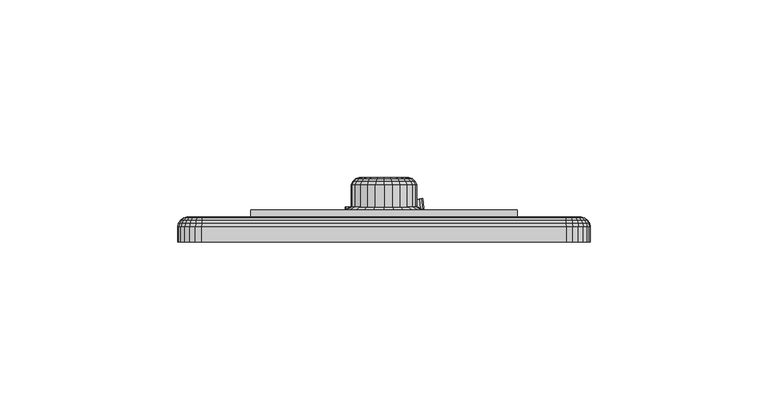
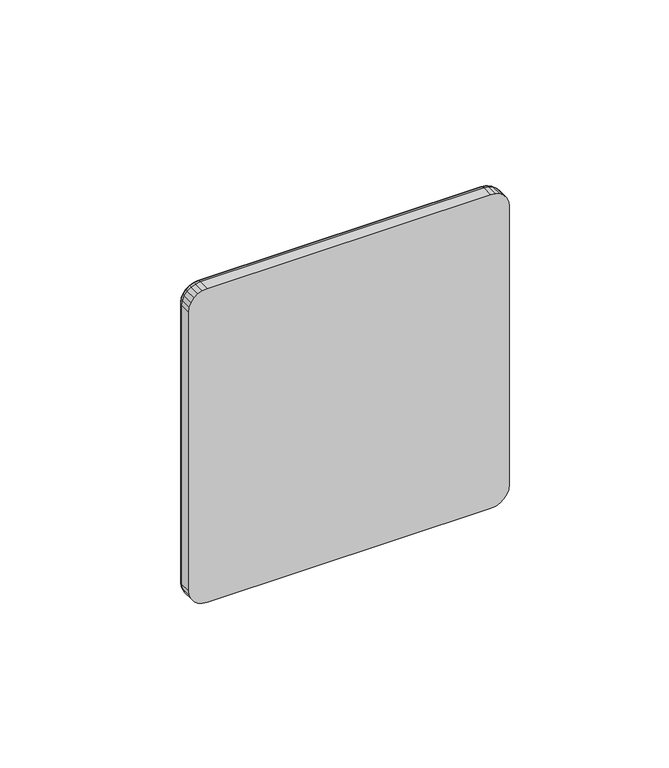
"""IFC4 building model written with IfcOpenShell, lengths in millimetres: switching device geometry, Light-Swich_01 : Light-Swich."""

import ifcopenshell
import ifcopenshell.guid

model = None  # the IFC model being written
_history = None  # IfcOwnerHistory: only IFC2X3 demands one
_inside = {}  # id of a spatial element -> (the spatial element, [elements in it])
_under = {}  # id of a project, library or spatial element -> (it, [spatial elements below it])
_declared = {}  # id of a project -> (the project, [libraries it declares])
_typed = {}  # id of a type object -> (the type object, [elements of that type])
_made_of = {}  # id of a material, layer set ... -> (it, [elements and type objects made of it])


def new_model(schema):
    """Start an empty IFC model of exactly this schema.

    Asked for "IFC4X3", IfcOpenShell would pick the latest addendum, in which some entities
    have other attributes; the version numbers below select the first issue.
    IFC2X3 requires an IfcOwnerHistory on every rooted entity: one is made here for all.
    """
    global model, _history
    if schema == "IFC4X3":
        model = ifcopenshell.file(schema_version=(4, 3, 0, 0))
    else:
        model = ifcopenshell.file(schema=schema)
    _inside.clear()
    _under.clear()
    _declared.clear()
    _typed.clear()
    _made_of.clear()
    _history = None
    if model.schema == "IFC2X3":
        org = make("IfcOrganization", Name="unknown")
        user = make(
            "IfcPersonAndOrganization",
            ThePerson=make("IfcPerson", FamilyName="unknown"),
            TheOrganization=org,
        )
        app = make(
            "IfcApplication",
            ApplicationDeveloper=org,
            Version="unknown",
            ApplicationFullName="unknown",
            ApplicationIdentifier="unknown",
        )
        _history = make(
            "IfcOwnerHistory",
            OwningUser=user,
            OwningApplication=app,
            ChangeAction="ADDED",
            CreationDate=0,
        )
    return model


def make(cls, **values):
    """One entity of the class cls with the attributes given. An attribute that is None is left unset."""
    return model.create_entity(
        cls, **{name: value for name, value in values.items() if value is not None}
    )


def rooted(cls, **values):
    """An entity with a GlobalId (a new one), such as an element, a storey or a relation."""
    return make(cls, GlobalId=ifcopenshell.guid.new(), OwnerHistory=_history, **values)


def si_unit(unit_type, name, prefix=None):
    """IfcSIUnit, for example si_unit("LENGTHUNIT", "METRE", prefix="MILLI")."""
    return make("IfcSIUnit", UnitType=unit_type, Prefix=prefix, Name=name)


def assignment(units):
    """IfcUnitAssignment: the units of a project."""
    return None if units is None else make("IfcUnitAssignment", Units=units)


def point(xyz):
    """IfcCartesianPoint."""
    return None if xyz is None else make("IfcCartesianPoint", Coordinates=xyz)


def direction(xyz):
    """IfcDirection."""
    return None if xyz is None else make("IfcDirection", DirectionRatios=xyz)


def frame(location, z_axis=None, x_axis=None):
    """IfcAxis2Placement3D, a coordinate frame: its origin and axes. An axis left out is left unset."""
    return make(
        "IfcAxis2Placement3D",
        Location=point(location),
        Axis=direction(z_axis),
        RefDirection=direction(x_axis),
    )


def origin():
    """The frame at (0, 0, 0) with its axes left unset."""
    return frame((0.0, 0.0, 0.0))


def place(relative_to, where):
    """IfcLocalPlacement: puts the frame where relative to a parent placement (None: the world)."""
    return make(
        "IfcLocalPlacement", PlacementRelTo=relative_to, RelativePlacement=where
    )


def context(
    kind, dimensions, precision=None, world=None, true_north=None, identifier=None
):
    """IfcGeometricRepresentationContext, for example the 3D "Model" context."""
    return make(
        "IfcGeometricRepresentationContext",
        ContextIdentifier=identifier,
        ContextType=kind,
        CoordinateSpaceDimension=dimensions,
        Precision=precision,
        WorldCoordinateSystem=world,
        TrueNorth=true_north,
    )


def project(units=None, contexts=None):
    """IfcProject with its units and contexts."""
    return rooted(
        "IfcProject",
        Name="project",
        RepresentationContexts=contexts,
        UnitsInContext=assignment(units),
    )


def spatial(cls, under=None, at=None, **own):
    """A site, building, storey or space (cls), placed at a placement, below another one or the project."""
    s = rooted(cls, ObjectPlacement=at, **own)
    if under is not None:
        _under.setdefault(under.id(), (under, []))[1].append(s)
    return s


def polyline(points):
    """IfcPolyline through the points."""
    return make("IfcPolyline", Points=[point(p) for p in points])


def outline(outer, holes=None, kind="AREA"):
    """IfcArbitraryClosedProfileDef: a profile drawn as a closed curve; with holes, ...WithVoids."""
    if holes is None:
        return make("IfcArbitraryClosedProfileDef", ProfileType=kind, OuterCurve=outer)
    return make(
        "IfcArbitraryProfileDefWithVoids",
        ProfileType=kind,
        OuterCurve=outer,
        InnerCurves=holes,
    )


def extrude(swept, where, along, depth):
    """IfcExtrudedAreaSolid: the profile swept, set in the frame where, extruded along a direction by depth."""
    return make(
        "IfcExtrudedAreaSolid",
        SweptArea=swept,
        Position=where,
        ExtrudedDirection=direction(along),
        Depth=depth,
    )


def faces_of(points, faces, orient=None, outer=None):
    """IfcFace entities. A face is a list of loops; a loop is a list of indices into points, from 0.

    orient and outer hold one flag for each loop. By default every Orientation is true, the
    first loop of a face is its IfcFaceOuterBound and the others are IfcFaceBound.
    """
    made = []
    for i, loops in enumerate(faces):
        bounds = []
        for j, loop in enumerate(loops):
            is_outer = j == 0 if outer is None else outer[i][j]
            bounds.append(
                make(
                    "IfcFaceOuterBound" if is_outer else "IfcFaceBound",
                    Bound=make("IfcPolyLoop", Polygon=[points[k] for k in loop]),
                    Orientation=True if orient is None else orient[i][j],
                )
            )
        made.append(make("IfcFace", Bounds=bounds))
    return made


def faceted_brep(points, faces, orient=None, outer=None, voids=None):
    """IfcFacetedBrep: a solid bounded by flat faces; with voids (closed shells), ...WithVoids."""
    shared = [point(p) for p in points]
    hull = make("IfcClosedShell", CfsFaces=faces_of(shared, faces, orient, outer))
    if voids is None:
        return make("IfcFacetedBrep", Outer=hull)
    return make(
        "IfcFacetedBrepWithVoids",
        Outer=hull,
        Voids=[
            make(cls, CfsFaces=faces_of(shared, fs, o, b)) for cls, fs, o, b in voids
        ],
    )


def shape(context_of_items, identifier, shape_type, items):
    """IfcShapeRepresentation: the items that make up one representation, for example the "Body"."""
    return make(
        "IfcShapeRepresentation",
        ContextOfItems=context_of_items,
        RepresentationIdentifier=identifier,
        RepresentationType=shape_type,
        Items=items,
    )


def source(mapping_origin, context_of_items, identifier, shape_type, items):
    """IfcRepresentationMap: a shape defined once, which mapped items show again and again."""
    return make(
        "IfcRepresentationMap",
        MappingOrigin=mapping_origin,
        MappedRepresentation=shape(context_of_items, identifier, shape_type, items),
    )


def transform(
    local_origin,
    x_axis=None,
    y_axis=None,
    z_axis=None,
    scale=None,
    scale2=None,
    scale3=None,
    uniform=True,
):
    """IfcCartesianTransformationOperator3D, or its non-uniform kind. x_axis, y_axis, z_axis: its Axis1, 2, 3."""
    if uniform:
        return make(
            "IfcCartesianTransformationOperator3D",
            Axis1=direction(x_axis),
            Axis2=direction(y_axis),
            LocalOrigin=point(local_origin),
            Scale=scale,
            Axis3=direction(z_axis),
        )
    return make(
        "IfcCartesianTransformationOperator3DnonUniform",
        Axis1=direction(x_axis),
        Axis2=direction(y_axis),
        LocalOrigin=point(local_origin),
        Scale=scale,
        Axis3=direction(z_axis),
        Scale2=scale2,
        Scale3=scale3,
    )


def mapped(mapping_source, mapping_target):
    """IfcMappedItem: shows the shape of a source again, moved by a transform."""
    return make(
        "IfcMappedItem", MappingSource=mapping_source, MappingTarget=mapping_target
    )


def made_of(thing, what):
    """Note that an element or type object is made of a material, layer set ...; save() writes the relation."""
    if what is not None:
        _made_of.setdefault(what.id(), (what, []))[1].append(thing)
    return thing


def element(
    cls,
    number,
    at=None,
    inside=None,
    cuts=None,
    type_object=None,
    material=None,
    context=None,
    identifier="Body",
    shape_type=None,
    held_by="IfcProductDefinitionShape",
    body=None,
    shapes=None,
    **own,
):
    """One element of the class cls, such as IfcWall. Its Tag is "e" and its number.

    at: its placement. inside: the storey or other place that contains it. cuts: it is an
    opening in that element (IfcRelVoidsElement). A single representation is given by context,
    identifier, shape_type and body (its items); several are given by shapes. held_by: the class
    of the entity that holds the representations. save() writes the other relations.
    """
    e = rooted(cls, Tag="e%d" % number, ObjectPlacement=at, **own)
    if body is not None:
        shapes = [shape(context, identifier, shape_type, body)]
    if shapes is not None:
        e.Representation = make(held_by, Representations=shapes)
    if inside is not None:
        _inside.setdefault(inside.id(), (inside, []))[1].append(e)
    if cuts is not None:
        rooted(
            "IfcRelVoidsElement", RelatingBuildingElement=cuts, RelatedOpeningElement=e
        )
    if type_object is not None:
        _typed.setdefault(type_object.id(), (type_object, []))[1].append(e)
    return made_of(e, material)


def aggregate(whole, parts):
    """IfcRelAggregates: a whole, such as a stair, and the parts it consists of."""
    return rooted("IfcRelAggregates", RelatingObject=whole, RelatedObjects=parts)


def save(model, path):
    """Write the relations noted so far, then the file.

    IfcRelAggregates (storeys below a building ...), IfcRelContainedInSpatialStructure (elements
    in a storey), IfcRelDefinesByType, IfcRelAssociatesMaterial and IfcRelDeclares: one each for
    every whole, place, type object, material and project.
    """
    for whole, parts in _under.values():
        aggregate(whole, parts)
    for where, things in _inside.values():
        rooted(
            "IfcRelContainedInSpatialStructure",
            RelatedElements=things,
            RelatingStructure=where,
        )
    for kind, things in _typed.values():
        rooted("IfcRelDefinesByType", RelatedObjects=things, RelatingType=kind)
    for what, things in _made_of.values():
        rooted("IfcRelAssociatesMaterial", RelatedObjects=things, RelatingMaterial=what)
    for by, libraries in _declared.values():
        rooted("IfcRelDeclares", RelatingContext=by, RelatedDefinitions=libraries)
    model.write(path)


def plane_surface(at):
    """IfcPlane: the flat surface through the origin of the frame at, square to its z axis."""
    return make("IfcPlane", Position=at)


def spline_surface(u_degree, v_degree, points, u_multiplicities, v_multiplicities, u_knots, v_knots, weights=None):
    """IfcBSplineSurfaceWithKnots; with weights, IfcRationalBSplineSurfaceWithKnots. points: one row for each step in u."""
    own = dict(
        UDegree=u_degree,
        VDegree=v_degree,
        ControlPointsList=[[point(p) for p in row] for row in points],
        SurfaceForm="UNSPECIFIED",
        UClosed=False,
        VClosed=False,
        SelfIntersect=False,
        UMultiplicities=u_multiplicities,
        VMultiplicities=v_multiplicities,
        UKnots=u_knots,
        VKnots=v_knots,
        KnotSpec="UNSPECIFIED",
    )
    if weights is None:
        return make("IfcBSplineSurfaceWithKnots", **own)
    return make("IfcRationalBSplineSurfaceWithKnots", WeightsData=weights, **own)


def advanced_brep(points, edges, surfaces, faces):
    """IfcAdvancedBrep: a solid bounded by faces that lie on surfaces and meet in shared edges.

    An edge is (start, end): straight between two places in points (the first is 0);
    or (start, end, curve); or (start, end, curve, False) where it runs against its curve.
    A face is (place in surfaces, loops), or (place, loops, False) where it looks against
    its surface's normal. A loop lists edges by number (the first is 1), with a minus sign
    where the edge is run from its end to its start. The first loop is the outer one.
    """
    corners = [point(p) for p in points]
    vertices = [make("IfcVertexPoint", VertexGeometry=c) for c in corners]
    made = []
    for start, end, *more in edges:
        made.append(
            make(
                "IfcEdgeCurve",
                EdgeStart=vertices[start],
                EdgeEnd=vertices[end],
                EdgeGeometry=more[0] if more else make("IfcPolyline", Points=[corners[start], corners[end]]),
                SameSense=more[1] if len(more) > 1 else True,
            )
        )
    hull = []
    for where, loops, *sense in faces:
        bounds = []
        for j, loop in enumerate(loops):
            ring = [make("IfcOrientedEdge", EdgeElement=made[abs(k) - 1], Orientation=k > 0) for k in loop]
            bounds.append(
                make(
                    "IfcFaceOuterBound" if j == 0 else "IfcFaceBound",
                    Bound=make("IfcEdgeLoop", EdgeList=ring),
                    Orientation=True,
                )
            )
        hull.append(make("IfcAdvancedFace", Bounds=bounds, FaceSurface=surfaces[where], SameSense=sense[0] if sense else True))
    return make("IfcAdvancedBrep", Outer=make("IfcClosedShell", CfsFaces=hull))


def switching_device_beee7f32(model_context):
    return source(origin(), model_context, "Body", "SolidModel", [
        extrude(outline(polyline([(-20.3580856, 0.0), (-0.3580856, 0.0), (0.3857807, -0.2561337), (0.6419144, -1.0), (0.6419144, -14.9694622), (0.3857807, -15.7133285), (-0.3580856, -15.9694622), (-20.3580856, -15.9694622), (-21.1019519, -15.7133285), (-21.3580856, -14.9694622), (-21.3580856, -1.0), (-21.1019519, -0.2561337), (-20.3580856, 0.0)])), frame((115.1428104, 15.9827491, 1238.932724), z_axis=(-0.10947671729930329, 0.9939893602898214, 0.0), x_axis=(-0.9939893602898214, -0.10947671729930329, 0.0)), (0.0, 0.0, 1.0), 4.0066718),
        faceted_brep([(123.210035, 28.2142935, 1272.5799747), (125.0, 28.2142935, 1272.8156281), (126.789965, 28.2142935, 1272.5799747), (128.4579468, 28.2142935, 1271.889074), (129.8902752, 28.2142935, 1270.7900097), (130.9893395, 28.2142935, 1269.3576813), (131.6802402, 28.2142935, 1267.6896995), (131.9158936, 28.2142935, 1265.8997345), (131.6802402, 28.2142935, 1264.1097695), (130.9893395, 28.2142935, 1262.4417877), (129.8902752, 28.2142935, 1261.0094593), (128.4579468, 28.2142935, 1259.910395), (126.789965, 28.2142935, 1259.2194943), (125.0, 28.2142935, 1258.9838409), (123.210035, 28.2142935, 1259.2194943), (121.5420532, 28.2142935, 1259.910395), (120.1097248, 28.2142935, 1261.0094593), (119.0106605, 28.2142935, 1262.4417877), (118.3197598, 28.2142935, 1264.1097695), (118.0841064, 28.2142935, 1265.8997345), (118.3197598, 28.2142935, 1267.6896995), (119.0106605, 28.2142935, 1269.3576813), (120.1097248, 28.2142935, 1270.7900097), (121.5420532, 28.2142935, 1271.889074), (121.0335159, 27.9142935, 1272.7698864), (122.9467968, 27.9142935, 1273.5623933), (119.3905444, 27.9142935, 1271.5091901), (118.1298481, 27.9142935, 1269.8662186), (117.3373412, 27.9142935, 1267.9529377), (117.0670319, 27.9142935, 1265.8997345), (117.3373412, 27.9142935, 1263.8465313), (118.1298481, 27.9142935, 1261.9332504), (119.3905444, 27.9142935, 1260.2902789), (121.0335159, 27.9142935, 1259.0295826), (122.9467968, 27.9142935, 1258.2370757), (125.0, 27.9142935, 1257.9667664), (127.0532032, 27.9142935, 1258.2370757), (128.9664841, 27.9142935, 1259.0295826), (130.6094556, 27.9142935, 1260.2902789), (131.8701519, 27.9142935, 1261.9332504), (132.6626588, 27.9142935, 1263.8465313), (132.9329681, 27.9142935, 1265.8997345), (132.6626588, 27.9142935, 1267.9529377), (131.8701519, 27.9142935, 1269.8662186), (130.6094556, 27.9142935, 1271.5091901), (128.9664841, 27.9142935, 1272.7698864), (127.0532032, 27.9142935, 1273.5623933), (125.0, 27.9142935, 1273.8327026), (122.7523349, 27.2142935, 1274.2881347), (120.6578445, 27.2142935, 1273.4205684), (118.8592649, 27.2142935, 1272.0404696), (117.4791661, 27.2142935, 1270.24189), (116.6115998, 27.2142935, 1268.1473996), (116.3156891, 27.2142935, 1265.8997345), (116.6115998, 27.2142935, 1263.6520694), (117.4791661, 27.2142935, 1261.557579), (118.8592649, 27.2142935, 1259.7589994), (120.6578445, 27.2142935, 1258.3789006), (122.7523349, 27.2142935, 1257.5113343), (125.0, 27.2142935, 1257.2154236), (127.2476651, 27.2142935, 1257.5113343), (129.3421555, 27.2142935, 1258.3789006), (131.1407351, 27.2142935, 1259.7589994), (132.5208339, 27.2142935, 1261.557579), (133.3884002, 27.2142935, 1263.6520694), (133.6843109, 27.2142935, 1265.8997345), (133.3884002, 27.2142935, 1268.1473996), (132.5208339, 27.2142935, 1270.24189), (131.1407351, 27.2142935, 1272.0404696), (129.3421555, 27.2142935, 1273.4205684), (127.2476651, 27.2142935, 1274.2881347), (125.0, 27.2142935, 1274.5840454), (122.6000908, 26.2142935, 1274.8563177), (120.3637314, 26.2142935, 1273.9299873), (118.443326, 26.2142935, 1272.4564085), (116.9697472, 26.2142935, 1270.5360031), (116.0434168, 26.2142935, 1268.2996437), (115.7274628, 26.2142935, 1265.8997345), (116.0434168, 26.2142935, 1263.4998253), (116.9697472, 26.2142935, 1261.2634659), (118.443326, 26.2142935, 1259.3430605), (120.3637314, 26.2142935, 1257.8694817), (122.6000908, 26.2142935, 1256.9431513), (125.0, 26.2142935, 1256.6271973), (127.3999092, 26.2142935, 1256.9431513), (129.6362686, 26.2142935, 1257.8694817), (131.556674, 26.2142935, 1259.3430605), (133.0302528, 26.2142935, 1261.2634659), (133.9565832, 26.2142935, 1263.4998253), (134.2725372, 26.2142935, 1265.8997345), (133.9565832, 26.2142935, 1268.2996437), (133.0302528, 26.2142935, 1270.5360031), (131.556674, 26.2142935, 1272.4564085), (129.6362686, 26.2142935, 1273.9299873), (127.3999092, 26.2142935, 1274.8563177), (125.0, 26.2142935, 1275.1722717), (122.6000977, 19.1539648, 1274.8562622), (125.0, 19.1539648, 1275.1722717), (120.3637695, 19.1539648, 1273.9299774), (118.4433746, 19.1539648, 1272.4563599), (116.9697952, 19.1539648, 1270.535965), (116.0434723, 19.1539648, 1268.2996368), (115.7275391, 19.1539648, 1265.8997345), (116.0434723, 19.1539648, 1263.4998322), (116.9697952, 19.1539648, 1261.263504), (118.4433746, 19.1539648, 1259.3431091), (120.3637695, 19.1539648, 1257.8694916), (122.6000977, 19.1539648, 1256.9432068), (125.0, 19.1539648, 1256.6271973), (127.3999023, 19.1539648, 1256.9432068), (129.6362305, 19.1539648, 1257.8694916), (131.5566254, 19.1539648, 1259.3431091), (133.0302048, 19.1539648, 1261.263504), (133.9565277, 19.1539648, 1263.4998322), (134.2724609, 19.1539648, 1265.8997345), (133.9565277, 19.1539648, 1268.2996368), (133.0302048, 19.1539648, 1270.535965), (131.5566254, 19.1539648, 1272.4563599), (129.6362305, 19.1539648, 1273.9299774), (127.3999023, 19.1539648, 1274.8562622)], [[[0, 1, 2, 3, 4, 5, 6, 7, 8, 9, 10, 11, 12, 13, 14, 15, 16, 17, 18, 19, 20, 21, 22, 23]], [[0, 23, 24, 25]], [[23, 22, 26, 24]], [[22, 21, 27, 26]], [[21, 20, 28, 27]], [[20, 19, 29, 28]], [[19, 18, 30, 29]], [[18, 17, 31, 30]], [[17, 16, 32, 31]], [[16, 15, 33, 32]], [[15, 14, 34, 33]], [[14, 13, 35, 34]], [[13, 12, 36, 35]], [[12, 11, 37, 36]], [[11, 10, 38, 37]], [[10, 9, 39, 38]], [[9, 8, 40, 39]], [[8, 7, 41, 40]], [[7, 6, 42, 41]], [[6, 5, 43, 42]], [[5, 4, 44, 43]], [[4, 3, 45, 44]], [[3, 2, 46, 45]], [[2, 1, 47, 46]], [[1, 0, 25, 47]], [[48, 25, 24, 49]], [[49, 24, 26, 50]], [[50, 26, 27, 51]], [[51, 27, 28, 52]], [[52, 28, 29, 53]], [[53, 29, 30, 54]], [[54, 30, 31, 55]], [[55, 31, 32, 56]], [[56, 32, 33, 57]], [[57, 33, 34, 58]], [[58, 34, 35, 59]], [[59, 35, 36, 60]], [[60, 36, 37, 61]], [[61, 37, 38, 62]], [[62, 38, 39, 63]], [[63, 39, 40, 64]], [[64, 40, 41, 65]], [[65, 41, 42, 66]], [[66, 42, 43, 67]], [[67, 43, 44, 68]], [[68, 44, 45, 69]], [[69, 45, 46, 70]], [[70, 46, 47, 71]], [[25, 48, 71, 47]], [[72, 48, 49, 73]], [[73, 49, 50, 74]], [[74, 50, 51, 75]], [[75, 51, 52, 76]], [[76, 52, 53, 77]], [[77, 53, 54, 78]], [[78, 54, 55, 79]], [[79, 55, 56, 80]], [[80, 56, 57, 81]], [[81, 57, 58, 82]], [[82, 58, 59, 83]], [[83, 59, 60, 84]], [[84, 60, 61, 85]], [[85, 61, 62, 86]], [[86, 62, 63, 87]], [[87, 63, 64, 88]], [[88, 64, 65, 89]], [[89, 65, 66, 90]], [[90, 66, 67, 91]], [[91, 67, 68, 92]], [[92, 68, 69, 93]], [[93, 69, 70, 94]], [[94, 70, 71, 95]], [[48, 72, 95, 71]], [[96, 97, 95, 72]], [[98, 96, 72, 73]], [[99, 98, 73, 74]], [[100, 99, 74, 75]], [[101, 100, 75, 76]], [[102, 101, 76, 77]], [[103, 102, 77, 78]], [[104, 103, 78, 79]], [[105, 104, 79, 80]], [[106, 105, 80, 81]], [[107, 106, 81, 82]], [[108, 107, 82, 83]], [[109, 108, 83, 84]], [[110, 109, 84, 85]], [[111, 110, 85, 86]], [[112, 111, 86, 87]], [[113, 112, 87, 88]], [[114, 113, 88, 89]], [[115, 114, 89, 90]], [[116, 115, 90, 91]], [[117, 116, 91, 92]], [[118, 117, 92, 93]], [[119, 118, 93, 94]], [[97, 119, 94, 95]], [[97, 96, 98, 99, 100, 101, 102, 103, 104, 105, 106, 107, 108, 109, 110, 111, 112, 113, 114, 115, 116, 117, 118, 119]]]),
        advanced_brep(
        [(131.5566254, 20.1142935, 1272.4563599), (133.0302048, 20.1142935, 1270.535965), (133.9565277, 20.1142935, 1268.2996368), (134.2724609, 20.1142935, 1265.8997345), (133.9565277, 20.1142935, 1263.4998322), (133.0302048, 20.1142935, 1261.263504), (131.5566254, 20.1142935, 1259.3431091), (129.6362305, 20.1142935, 1257.8694916), (127.3999023, 20.1142935, 1256.9432068), (125.0, 20.1142935, 1256.6271973), (122.6000977, 20.1142935, 1256.9432068), (120.3637695, 20.1142935, 1257.8694916), (118.4433746, 20.1142935, 1259.3431091), (116.9697952, 20.1142935, 1261.263504), (116.0434723, 20.1142935, 1263.4998322), (115.7275391, 20.1142935, 1265.8997345), (116.0434723, 20.1142935, 1268.2996368), (116.9697952, 20.1142935, 1270.535965), (118.4433746, 20.1142935, 1272.4563599), (120.3637695, 20.1142935, 1273.9299774), (122.6000977, 20.1142935, 1274.8562622), (125.0, 20.1142935, 1275.1722717), (127.3999023, 20.1142935, 1274.8562622), (129.6362305, 20.1142935, 1273.9299774), (132.7561569, 19.1539648, 1273.6559296), (130.4844284, 19.1539648, 1275.3990936), (127.8389359, 19.1539648, 1276.4949036), (125.0, 19.1539648, 1276.8686676), (122.1610641, 19.1539648, 1276.4949036), (119.5155716, 19.1539648, 1275.3990936), (117.2438431, 19.1539648, 1273.6559296), (115.500679, 19.1539648, 1271.384201), (114.4049072, 19.1539648, 1268.7387085), (114.0311432, 19.1539648, 1265.8997345), (114.4049072, 19.1539648, 1263.0607605), (115.500679, 19.1539648, 1260.4152679), (117.2438431, 19.1539648, 1258.1435394), (119.5155716, 19.1539648, 1256.4003754), (122.1610641, 19.1539648, 1255.3045654), (125.0, 19.1539648, 1254.9308014), (127.8389359, 19.1539648, 1255.3045654), (130.4844284, 19.1539648, 1256.4003754), (132.7561569, 19.1539648, 1258.1435394), (134.499321, 19.1539648, 1260.4152679), (135.5950928, 19.1539648, 1263.0607605), (135.9688568, 19.1539648, 1265.8997345), (135.5950928, 19.1539648, 1268.7387085), (134.499321, 19.1539648, 1271.384201)],
        [
            (0, 1),
            (1, 2),
            (2, 3),
            (3, 4),
            (4, 5),
            (5, 6),
            (6, 7),
            (7, 8),
            (8, 9),
            (9, 10),
            (10, 11),
            (11, 12),
            (12, 13),
            (13, 14),
            (14, 15),
            (15, 16),
            (16, 17),
            (17, 18),
            (18, 19),
            (19, 20),
            (20, 21),
            (21, 22),
            (22, 23),
            (23, 0),
            (24, 25),
            (25, 26),
            (26, 27),
            (27, 28),
            (28, 29),
            (29, 30),
            (30, 31),
            (31, 32),
            (32, 33),
            (33, 34),
            (34, 35),
            (35, 36),
            (36, 37),
            (37, 38),
            (38, 39),
            (39, 40),
            (40, 41),
            (41, 42),
            (42, 43),
            (43, 44),
            (44, 45),
            (45, 46),
            (46, 47),
            (47, 24),
            (24, 0),
            (23, 25),
            (22, 26),
            (21, 27),
            (20, 28),
            (19, 29),
            (18, 30),
            (17, 31),
            (16, 32),
            (15, 33),
            (14, 34),
            (13, 35),
            (12, 36),
            (11, 37),
            (10, 38),
            (9, 39),
            (8, 40),
            (7, 41),
            (6, 42),
            (5, 43),
            (4, 44),
            (3, 45),
            (2, 46),
            (1, 47),
        ],
        [
            plane_surface(frame((125.0, 20.1142935, 1265.8997345), z_axis=(0.0, 1.0, 0.0), x_axis=(-0.9238843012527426, 0.0, -0.3826719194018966))),
            plane_surface(frame((125.0, 19.1539648, 1265.8997345), z_axis=(0.0, -1.0, 0.0), x_axis=(-0.9238843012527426, 0.0, -0.3826719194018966))),
            spline_surface(1, 1, [[(130.4844284, 19.1539648, 1275.3990936), (129.6362305, 20.1142935, 1273.9299774)], [(132.7561569, 19.1539648, 1273.6559296), (131.5566254, 20.1142935, 1272.4563599)]], [2, 2], [2, 2], [0.0, 1.0], [0.0, 1.0]),
            spline_surface(1, 1, [[(127.8389359, 19.1539648, 1276.4949036), (127.3999023, 20.1142935, 1274.8562622)], [(130.4844284, 19.1539648, 1275.3990936), (129.6362305, 20.1142935, 1273.9299774)]], [2, 2], [2, 2], [0.0, 1.0], [0.0, 1.0]),
            spline_surface(1, 1, [[(125.0, 19.1539648, 1276.8686676), (125.0, 20.1142935, 1275.1722717)], [(127.8389359, 19.1539648, 1276.4949036), (127.3999023, 20.1142935, 1274.8562622)]], [2, 2], [2, 2], [0.0, 1.0], [0.0, 1.0]),
            spline_surface(1, 1, [[(122.1610641, 19.1539648, 1276.4949036), (122.6000977, 20.1142935, 1274.8562622)], [(125.0, 19.1539648, 1276.8686676), (125.0, 20.1142935, 1275.1722717)]], [2, 2], [2, 2], [0.0, 1.0], [0.0, 1.0]),
            spline_surface(1, 1, [[(119.5155716, 19.1539648, 1275.3990936), (120.3637695, 20.1142935, 1273.9299774)], [(122.1610641, 19.1539648, 1276.4949036), (122.6000977, 20.1142935, 1274.8562622)]], [2, 2], [2, 2], [0.0, 1.0], [0.0, 1.0]),
            spline_surface(1, 1, [[(117.2438431, 19.1539648, 1273.6559296), (118.4433746, 20.1142935, 1272.4563599)], [(119.5155716, 19.1539648, 1275.3990936), (120.3637695, 20.1142935, 1273.9299774)]], [2, 2], [2, 2], [0.0, 1.0], [0.0, 1.0]),
            spline_surface(1, 1, [[(115.500679, 19.1539648, 1271.384201), (116.9697952, 20.1142935, 1270.535965)], [(117.2438431, 19.1539648, 1273.6559296), (118.4433746, 20.1142935, 1272.4563599)]], [2, 2], [2, 2], [0.0, 1.0], [0.0, 1.0]),
            spline_surface(1, 1, [[(114.4049072, 19.1539648, 1268.7387085), (116.0434723, 20.1142935, 1268.2996368)], [(115.500679, 19.1539648, 1271.384201), (116.9697952, 20.1142935, 1270.535965)]], [2, 2], [2, 2], [0.0, 1.0], [0.0, 1.0]),
            spline_surface(1, 1, [[(114.0311432, 19.1539648, 1265.8997345), (115.7275391, 20.1142935, 1265.8997345)], [(114.4049072, 19.1539648, 1268.7387085), (116.0434723, 20.1142935, 1268.2996368)]], [2, 2], [2, 2], [0.0, 1.0], [0.0, 1.0]),
            spline_surface(1, 1, [[(114.4049072, 19.1539648, 1263.0607605), (116.0434723, 20.1142935, 1263.4998322)], [(114.0311432, 19.1539648, 1265.8997345), (115.7275391, 20.1142935, 1265.8997345)]], [2, 2], [2, 2], [0.0, 1.0], [0.0, 1.0]),
            spline_surface(1, 1, [[(115.500679, 19.1539648, 1260.4152679), (116.9697952, 20.1142935, 1261.263504)], [(114.4049072, 19.1539648, 1263.0607605), (116.0434723, 20.1142935, 1263.4998322)]], [2, 2], [2, 2], [0.0, 1.0], [0.0, 1.0]),
            spline_surface(1, 1, [[(117.2438431, 19.1539648, 1258.1435394), (118.4433746, 20.1142935, 1259.3431091)], [(115.500679, 19.1539648, 1260.4152679), (116.9697952, 20.1142935, 1261.263504)]], [2, 2], [2, 2], [0.0, 1.0], [0.0, 1.0]),
            spline_surface(1, 1, [[(119.5155716, 19.1539648, 1256.4003754), (120.3637695, 20.1142935, 1257.8694916)], [(117.2438431, 19.1539648, 1258.1435394), (118.4433746, 20.1142935, 1259.3431091)]], [2, 2], [2, 2], [0.0, 1.0], [0.0, 1.0]),
            spline_surface(1, 1, [[(122.1610641, 19.1539648, 1255.3045654), (122.6000977, 20.1142935, 1256.9432068)], [(119.5155716, 19.1539648, 1256.4003754), (120.3637695, 20.1142935, 1257.8694916)]], [2, 2], [2, 2], [0.0, 1.0], [0.0, 1.0]),
            spline_surface(1, 1, [[(125.0, 19.1539648, 1254.9308014), (125.0, 20.1142935, 1256.6271973)], [(122.1610641, 19.1539648, 1255.3045654), (122.6000977, 20.1142935, 1256.9432068)]], [2, 2], [2, 2], [0.0, 1.0], [0.0, 1.0]),
            spline_surface(1, 1, [[(127.8389359, 19.1539648, 1255.3045654), (127.3999023, 20.1142935, 1256.9432068)], [(125.0, 19.1539648, 1254.9308014), (125.0, 20.1142935, 1256.6271973)]], [2, 2], [2, 2], [0.0, 1.0], [0.0, 1.0]),
            spline_surface(1, 1, [[(130.4844284, 19.1539648, 1256.4003754), (129.6362305, 20.1142935, 1257.8694916)], [(127.8389359, 19.1539648, 1255.3045654), (127.3999023, 20.1142935, 1256.9432068)]], [2, 2], [2, 2], [0.0, 1.0], [0.0, 1.0]),
            spline_surface(1, 1, [[(132.7561569, 19.1539648, 1258.1435394), (131.5566254, 20.1142935, 1259.3431091)], [(130.4844284, 19.1539648, 1256.4003754), (129.6362305, 20.1142935, 1257.8694916)]], [2, 2], [2, 2], [0.0, 1.0], [0.0, 1.0]),
            spline_surface(1, 1, [[(134.499321, 19.1539648, 1260.4152679), (133.0302048, 20.1142935, 1261.263504)], [(132.7561569, 19.1539648, 1258.1435394), (131.5566254, 20.1142935, 1259.3431091)]], [2, 2], [2, 2], [0.0, 1.0], [0.0, 1.0]),
            spline_surface(1, 1, [[(135.5950928, 19.1539648, 1263.0607605), (133.9565277, 20.1142935, 1263.4998322)], [(134.499321, 19.1539648, 1260.4152679), (133.0302048, 20.1142935, 1261.263504)]], [2, 2], [2, 2], [0.0, 1.0], [0.0, 1.0]),
            spline_surface(1, 1, [[(135.9688568, 19.1539648, 1265.8997345), (134.2724609, 20.1142935, 1265.8997345)], [(135.5950928, 19.1539648, 1263.0607605), (133.9565277, 20.1142935, 1263.4998322)]], [2, 2], [2, 2], [0.0, 1.0], [0.0, 1.0]),
            spline_surface(1, 1, [[(135.5950928, 19.1539648, 1268.7387085), (133.9565277, 20.1142935, 1268.2996368)], [(135.9688568, 19.1539648, 1265.8997345), (134.2724609, 20.1142935, 1265.8997345)]], [2, 2], [2, 2], [0.0, 1.0], [0.0, 1.0]),
            spline_surface(1, 1, [[(134.499321, 19.1539648, 1271.384201), (133.0302048, 20.1142935, 1270.535965)], [(135.5950928, 19.1539648, 1268.7387085), (133.9565277, 20.1142935, 1268.2996368)]], [2, 2], [2, 2], [0.0, 1.0], [0.0, 1.0]),
            spline_surface(1, 1, [[(132.7561569, 19.1539648, 1273.6559296), (131.5566254, 20.1142935, 1272.4563599)], [(134.499321, 19.1539648, 1271.384201), (133.0302048, 20.1142935, 1270.535965)]], [2, 2], [2, 2], [0.0, 1.0], [0.0, 1.0]),
        ],
        [
            (0, [[1, 2, 3, 4, 5, 6, 7, 8, 9, 10, 11, 12, 13, 14, 15, 16, 17, 18, 19, 20, 21, 22, 23, 24]]),
            (1, [[25, 26, 27, 28, 29, 30, 31, 32, 33, 34, 35, 36, 37, 38, 39, 40, 41, 42, 43, 44, 45, 46, 47, 48]]),
            (2, [[-25, 49, -24, 50]]),
            (3, [[-26, -50, -23, 51]]),
            (4, [[-27, -51, -22, 52]]),
            (5, [[-28, -52, -21, 53]]),
            (6, [[-29, -53, -20, 54]]),
            (7, [[-30, -54, -19, 55]]),
            (8, [[-31, -55, -18, 56]]),
            (9, [[-32, -56, -17, 57]]),
            (10, [[-33, -57, -16, 58]]),
            (11, [[-34, -58, -15, 59]]),
            (12, [[-35, -59, -14, 60]]),
            (13, [[-36, -60, -13, 61]]),
            (14, [[-37, -61, -12, 62]]),
            (15, [[-38, -62, -11, 63]]),
            (16, [[-39, -63, -10, 64]]),
            (17, [[-40, -64, -9, 65]]),
            (18, [[-41, -65, -8, 66]]),
            (19, [[-42, -66, -7, 67]]),
            (20, [[-43, -67, -6, 68]]),
            (21, [[-44, -68, -5, 69]]),
            (22, [[-45, -69, -4, 70]]),
            (23, [[-46, -70, -3, 71]]),
            (24, [[-47, -71, -2, 72]]),
            (25, [[-48, -72, -1, -49]]),
        ],
    ),
        extrude(outline(polyline([(1284.0201721, 87.4672623), (1215.9793701, 87.4672623), (1215.9793701, 162.5326614), (1284.0201721, 162.5326614), (1284.0201721, 87.4672623)]), holes=[polyline([(1223.9466227, 136.4725202), (1223.140869, 136.1967446), (1222.8632618, 135.3953608), (1222.8632618, 115.0432765), (1223.140869, 114.2418927), (1223.9466227, 113.966117), (1237.9493631, 113.966117), (1238.7551168, 114.2418927), (1239.032724, 115.0432765), (1239.032724, 135.3953608), (1238.7551168, 136.1967446), (1237.9493631, 136.4725202), (1223.9466227, 136.4725202)])]), frame((0.0, 17.1109083, 0.0), z_axis=(0.0, 1.0, 0.0), x_axis=(0.0, 0.0, 1.0)), (0.0, 0.0, 1.0), 2.0430565),
        faceted_brep([(176.171491, 17.1109083, 1307.5289917), (177.4138723, 17.1109083, 1307.3655089), (178.4206622, 17.1109083, 1306.9484515), (179.2852563, 17.1109083, 1306.2850586), (179.9486728, 17.1109083, 1305.4204099), (180.3657525, 17.1109083, 1304.4135901), (180.5292892, 17.1109083, 1303.1712159), (180.5292892, 17.1109083, 1196.8283264), (180.3657525, 17.1109083, 1195.5859521), (179.9486728, 17.1109083, 1194.5791323), (179.2852563, 17.1109083, 1193.7144837), (178.4206622, 17.1109083, 1193.0510907), (177.4138723, 17.1109083, 1192.6340333), (176.171491, 17.1109083, 1192.4705505), (73.828509, 17.1109083, 1192.4705505), (72.5861277, 17.1109083, 1192.6340333), (71.5793378, 17.1109083, 1193.0510907), (70.7147437, 17.1109083, 1193.7144837), (70.0513272, 17.1109083, 1194.5791323), (69.6342475, 17.1109083, 1195.5859521), (69.4707108, 17.1109083, 1196.8283264), (69.4707108, 17.1109083, 1303.1712159), (69.6342475, 17.1109083, 1304.4135901), (70.0513272, 17.1109083, 1305.4204099), (70.7147437, 17.1109083, 1306.2850586), (71.5793378, 17.1109083, 1306.9484515), (72.5861277, 17.1109083, 1307.3655089), (73.828509, 17.1109083, 1307.5289917), (73.6666489, 10.0142935, 1309.9996948), (71.941185, 10.0142935, 1309.772644), (70.3333282, 10.0142935, 1309.1065979), (68.9525986, 10.0142935, 1308.0471802), (67.8931808, 10.0142935, 1306.6664124), (67.2271347, 10.0142935, 1305.0585937), (67.0000076, 10.0142935, 1303.3331299), (67.0000076, 10.0142935, 1196.6664124), (67.2271347, 10.0142935, 1194.9409485), (67.8931808, 10.0142935, 1193.3331299), (68.9525986, 10.0142935, 1191.9523621), (70.3333282, 10.0142935, 1190.8929443), (71.941185, 10.0142935, 1190.2268982), (73.6666489, 10.0142935, 1189.9998474), (176.3333511, 10.0142935, 1189.9998474), (178.058815, 10.0142935, 1190.2268982), (179.6666718, 10.0142935, 1190.8929443), (181.0474014, 10.0142935, 1191.9523621), (182.1068192, 10.0142935, 1193.3331299), (182.7728653, 10.0142935, 1194.9409485), (182.9999924, 10.0142935, 1196.6664124), (182.9999924, 10.0142935, 1303.3331299), (182.7728653, 10.0142935, 1305.0585937), (182.1068192, 10.0142935, 1306.6664124), (181.0474014, 10.0142935, 1308.0471802), (179.6666718, 10.0142935, 1309.1065979), (178.058815, 10.0142935, 1309.772644), (176.3333511, 10.0142935, 1309.9996948), (73.6666489, 14.2312175, 1309.9996948), (71.941185, 14.2312175, 1309.772644), (70.3333282, 14.2312175, 1309.1065979), (68.9525986, 14.2312175, 1308.0471802), (67.8931808, 14.2312175, 1306.6664124), (67.2271347, 14.2312175, 1305.0585937), (67.0000076, 14.2312175, 1303.3331299), (67.0000076, 14.2312175, 1196.6664124), (67.2271347, 14.2312175, 1194.9409485), (67.8931808, 14.2312175, 1193.3331299), (68.9525986, 14.2312175, 1191.9523621), (70.3333282, 14.2312175, 1190.8929443), (71.941185, 14.2312175, 1190.2268982), (73.6666489, 14.2312175, 1189.9998474), (176.3333511, 14.2312175, 1189.9998474), (178.058815, 14.2312175, 1190.2268982), (179.6666718, 14.2312175, 1190.8929443), (181.0474014, 14.2312175, 1191.9523621), (182.1068192, 14.2312175, 1193.3331299), (182.7728653, 14.2312175, 1194.9409485), (182.9999924, 14.2312175, 1196.6664124), (182.9999924, 14.2312175, 1303.3331299), (182.7728653, 14.2312175, 1305.0585938), (182.1068192, 14.2312175, 1306.6664124), (181.0474014, 14.2312175, 1308.0471802), (179.6666718, 14.2312175, 1309.1065979), (178.058815, 14.2312175, 1309.772644), (176.3333511, 14.2312175, 1309.9996948), (176.3214855, 15.2427199, 1309.818573), (178.0115357, 15.2427199, 1309.5961822), (177.875513, 16.1283901, 1309.0885015), (176.2873482, 16.1283901, 1309.2974854), (177.6676751, 16.7780569, 1308.3127832), (176.2351875, 16.7780569, 1308.5012817), (179.5753295, 15.2427199, 1308.9483889), (179.3125379, 16.1283901, 1308.4932216), (178.9110014, 16.7780569, 1307.7977418), (180.9182224, 15.2427199, 1307.9180029), (180.5465744, 16.1283901, 1307.5463598), (179.9787092, 16.7780569, 1306.9785022), (181.9486102, 15.2427199, 1306.5750706), (181.4934428, 16.1283901, 1306.3122805), (180.7979631, 16.7780569, 1305.9107463), (182.5964051, 15.2427199, 1305.0113099), (182.0887291, 16.1283901, 1304.8752744), (181.313018, 16.7780569, 1304.6674169), (182.8188705, 15.2427199, 1303.3212603), (182.2977829, 16.1283901, 1303.2871116), (181.5015793, 16.7780569, 1303.2349335), (182.8188705, 15.2427199, 1196.6782819), (182.2977829, 16.1283901, 1196.7124307), (181.5015793, 16.7780569, 1196.7646087), (182.5964051, 15.2427199, 1194.9882323), (182.0887291, 16.1283901, 1195.1242678), (181.313018, 16.7780569, 1195.3321254), (181.9486102, 15.2427199, 1193.4244716), (181.4934428, 16.1283901, 1193.6872618), (180.7979631, 16.7780569, 1194.0887959), (180.9182224, 15.2427199, 1192.0815393), (180.5465744, 16.1283901, 1192.4531824), (179.9787092, 16.7780569, 1193.0210401), (179.5753295, 15.2427199, 1191.0511533), (179.3125379, 16.1283901, 1191.5063207), (178.9110014, 16.7780569, 1192.2018004), (178.0115357, 15.2427199, 1190.40336), (177.875513, 16.1283901, 1190.9110407), (177.6676751, 16.7780569, 1191.686759), (176.3214855, 15.2427199, 1190.1809692), (176.2873482, 16.1283901, 1190.7020569), (176.2351875, 16.7780569, 1191.4982605), (73.6785145, 15.2427199, 1190.1809692), (73.7126518, 16.1283901, 1190.7020569), (73.7648125, 16.7780569, 1191.4982605), (71.9884643, 15.2427199, 1190.40336), (72.124487, 16.1283901, 1190.9110407), (72.3323249, 16.7780569, 1191.686759), (70.4246705, 15.2427199, 1191.0511533), (70.6874621, 16.1283901, 1191.5063207), (71.0889986, 16.7780569, 1192.2018004), (69.0817776, 15.2427199, 1192.0815393), (69.4534256, 16.1283901, 1192.4531824), (70.0212908, 16.7780569, 1193.0210401), (68.0513898, 15.2427199, 1193.4244716), (68.5065572, 16.1283901, 1193.6872618), (69.2020369, 16.7780569, 1194.0887959), (67.4035949, 15.2427199, 1194.9882323), (67.9112709, 16.1283901, 1195.1242678), (68.686982, 16.7780569, 1195.3321254), (67.1811295, 15.2427199, 1196.6782819), (67.7022171, 16.1283901, 1196.7124307), (68.4984207, 16.7780569, 1196.7646087), (67.1811295, 15.2427199, 1303.3212603), (67.7022171, 16.1283901, 1303.2871116), (68.4984207, 16.7780569, 1303.2349335), (67.4035949, 15.2427199, 1305.0113099), (67.9112709, 16.1283901, 1304.8752744), (68.686982, 16.7780569, 1304.6674169), (68.0513898, 15.2427199, 1306.5750706), (68.5065572, 16.1283901, 1306.3122805), (69.2020369, 16.7780569, 1305.9107463), (69.0817776, 15.2427199, 1307.9180029), (69.4534256, 16.1283901, 1307.5463598), (70.0212908, 16.7780569, 1306.9785022), (70.4246705, 15.2427199, 1308.9483889), (70.6874621, 16.1283901, 1308.4932216), (71.0889986, 16.7780569, 1307.7977418), (71.9884643, 15.2427199, 1309.5961822), (72.124487, 16.1283901, 1309.0885015), (72.3323249, 16.7780569, 1308.3127832), (73.6785145, 15.2427199, 1309.818573), (73.7126518, 16.1283901, 1309.2974854), (73.7648125, 16.7780569, 1308.5012817)], [[[0, 1, 2, 3, 4, 5, 6, 7, 8, 9, 10, 11, 12, 13, 14, 15, 16, 17, 18, 19, 20, 21, 22, 23, 24, 25, 26, 27]], [[28, 29, 30, 31, 32, 33, 34, 35, 36, 37, 38, 39, 40, 41, 42, 43, 44, 45, 46, 47, 48, 49, 50, 51, 52, 53, 54, 55]], [[29, 28, 56, 57]], [[30, 29, 57, 58]], [[31, 30, 58, 59]], [[32, 31, 59, 60]], [[33, 32, 60, 61]], [[34, 33, 61, 62]], [[35, 34, 62, 63]], [[36, 35, 63, 64]], [[37, 36, 64, 65]], [[38, 37, 65, 66]], [[39, 38, 66, 67]], [[40, 39, 67, 68]], [[41, 40, 68, 69]], [[42, 41, 69, 70]], [[43, 42, 70, 71]], [[44, 43, 71, 72]], [[45, 44, 72, 73]], [[46, 45, 73, 74]], [[47, 46, 74, 75]], [[48, 47, 75, 76]], [[49, 48, 76, 77]], [[50, 49, 77, 78]], [[51, 50, 78, 79]], [[52, 51, 79, 80]], [[53, 52, 80, 81]], [[54, 53, 81, 82]], [[55, 54, 82, 83]], [[56, 28, 55, 83]], [[84, 83, 82, 85]], [[84, 85, 86, 87]], [[87, 86, 88, 89]], [[89, 88, 1, 0]], [[85, 82, 81, 90]], [[86, 85, 90, 91]], [[88, 86, 91, 92]], [[1, 88, 92, 2]], [[90, 81, 80, 93]], [[91, 90, 93, 94]], [[92, 91, 94, 95]], [[2, 92, 95, 3]], [[93, 80, 79, 96]], [[94, 93, 96, 97]], [[95, 94, 97, 98]], [[3, 95, 98, 4]], [[96, 79, 78, 99]], [[97, 96, 99, 100]], [[98, 97, 100, 101]], [[4, 98, 101, 5]], [[99, 78, 77, 102]], [[100, 99, 102, 103]], [[101, 100, 103, 104]], [[5, 101, 104, 6]], [[102, 77, 76, 105]], [[103, 102, 105, 106]], [[104, 103, 106, 107]], [[6, 104, 107, 7]], [[105, 76, 75, 108]], [[106, 105, 108, 109]], [[107, 106, 109, 110]], [[7, 107, 110, 8]], [[108, 75, 74, 111]], [[109, 108, 111, 112]], [[110, 109, 112, 113]], [[8, 110, 113, 9]], [[111, 74, 73, 114]], [[112, 111, 114, 115]], [[113, 112, 115, 116]], [[9, 113, 116, 10]], [[114, 73, 72, 117]], [[115, 114, 117, 118]], [[116, 115, 118, 119]], [[10, 116, 119, 11]], [[117, 72, 71, 120]], [[118, 117, 120, 121]], [[119, 118, 121, 122]], [[11, 119, 122, 12]], [[120, 71, 70, 123]], [[121, 120, 123, 124]], [[122, 121, 124, 125]], [[12, 122, 125, 13]], [[123, 70, 69, 126]], [[124, 123, 126, 127]], [[125, 124, 127, 128]], [[13, 125, 128, 14]], [[126, 69, 68, 129]], [[127, 126, 129, 130]], [[128, 127, 130, 131]], [[14, 128, 131, 15]], [[129, 68, 67, 132]], [[130, 129, 132, 133]], [[131, 130, 133, 134]], [[15, 131, 134, 16]], [[132, 67, 66, 135]], [[133, 132, 135, 136]], [[134, 133, 136, 137]], [[16, 134, 137, 17]], [[135, 66, 65, 138]], [[136, 135, 138, 139]], [[137, 136, 139, 140]], [[17, 137, 140, 18]], [[138, 65, 64, 141]], [[139, 138, 141, 142]], [[140, 139, 142, 143]], [[18, 140, 143, 19]], [[141, 64, 63, 144]], [[142, 141, 144, 145]], [[143, 142, 145, 146]], [[19, 143, 146, 20]], [[144, 63, 62, 147]], [[145, 144, 147, 148]], [[146, 145, 148, 149]], [[20, 146, 149, 21]], [[147, 62, 61, 150]], [[148, 147, 150, 151]], [[149, 148, 151, 152]], [[21, 149, 152, 22]], [[150, 61, 60, 153]], [[151, 150, 153, 154]], [[152, 151, 154, 155]], [[22, 152, 155, 23]], [[153, 60, 59, 156]], [[154, 153, 156, 157]], [[155, 154, 157, 158]], [[23, 155, 158, 24]], [[156, 59, 58, 159]], [[157, 156, 159, 160]], [[158, 157, 160, 161]], [[24, 158, 161, 25]], [[159, 58, 57, 162]], [[160, 159, 162, 163]], [[161, 160, 163, 164]], [[25, 161, 164, 26]], [[162, 57, 56, 165]], [[163, 162, 165, 166]], [[164, 163, 166, 167]], [[26, 164, 167, 27]], [[83, 84, 165, 56]], [[84, 87, 166, 165]], [[87, 89, 167, 166]], [[89, 0, 27, 167]]]),
    ])


if __name__ == "__main__":
    model = new_model("IFC4")
    model_context = context("Model", 3, world=origin())
    ifc_project = project(units=[si_unit("LENGTHUNIT", "METRE", prefix="MILLI")], contexts=[model_context])
    site = spatial("IfcSite", under=ifc_project)
    building = spatial("IfcBuilding", under=site)
    placement = place(None, origin())
    switching_device_shape = switching_device_beee7f32(model_context)
    element("IfcSwitchingDevice", 1, ObjectType="Light-Swich_01 : Light-Swich", at=placement, inside=building, context=model_context, shape_type="MappedRepresentation", body=[
        mapped(switching_device_shape, transform((0.0, 0.0, 0.0), x_axis=(1.0, 0.0, 0.0), y_axis=(0.0, 1.0, 0.0), z_axis=(0.0, 0.0, 1.0))),
    ])
    save(model, "model.ifc")
